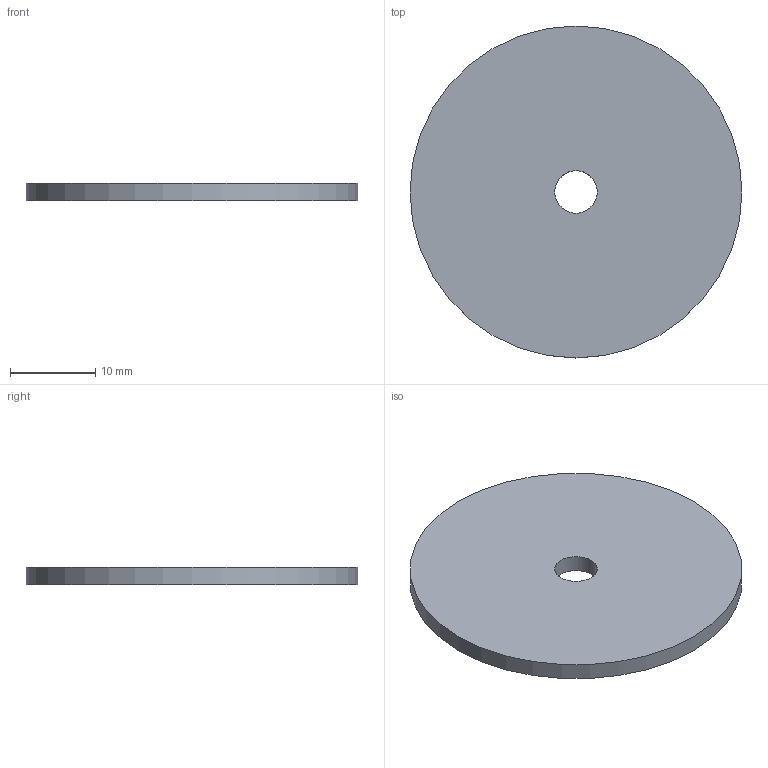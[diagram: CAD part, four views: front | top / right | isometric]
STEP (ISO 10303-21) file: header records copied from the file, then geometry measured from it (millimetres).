
FILE_DESCRIPTION(/* description */ ('STEP AP242','CAx-IF Rec.Pracs.---Representation and Presentation of Product Manufacturing Information (PMI)---4.0---2014-10-13','CAx-IF Rec.Pracs.---3D Tessellated Geometry---0.4---2014-09-14','2;1','CAx-IF Rec.Pracs.---User Defined Attributes---1.5---2016-08-15'),/* implementation_level */ '2;1');
FILE_NAME(/* name */ '692091e1651695f604e48e96',/* time_stamp */ '2025-11-21T16:22:58Z',/* author */ (''),/* organization */ (''),/* preprocessor_version */ 'ST-DEVELOPER v20',/* originating_system */ 'ONSHAPE BY PTC INC, 1.206',/* authorisation */ ' ');
FILE_SCHEMA (('AP242_MANAGED_MODEL_BASED_3D_ENGINEERING_MIM_LF { 1 0 10303 442 1 1 4 }'));
Length unit declared in the file: metre
Products named in the file (1): Part 1
Bounding box: 39 x 39 x 2 mm (x, y, z)
Volume: 2349.9 mm3; surface area: 2626.4 mm2
Topology: 1 solids, 1 shells, 4 faces, 6 edges, 4 vertices
Faces by surface type: cylinder 2, plane 2
Full cylindrical faces by diameter (mm): 5 x1, 39 x1
Entity records: 110 total; most frequent: DIRECTION 18, CARTESIAN_POINT 13, AXIS2_PLACEMENT_3D 9, ORIENTED_EDGE 8, EDGE_LOOP 8, FACE_BOUND 8, EDGE_CURVE 4, VERTEX_POINT 4
